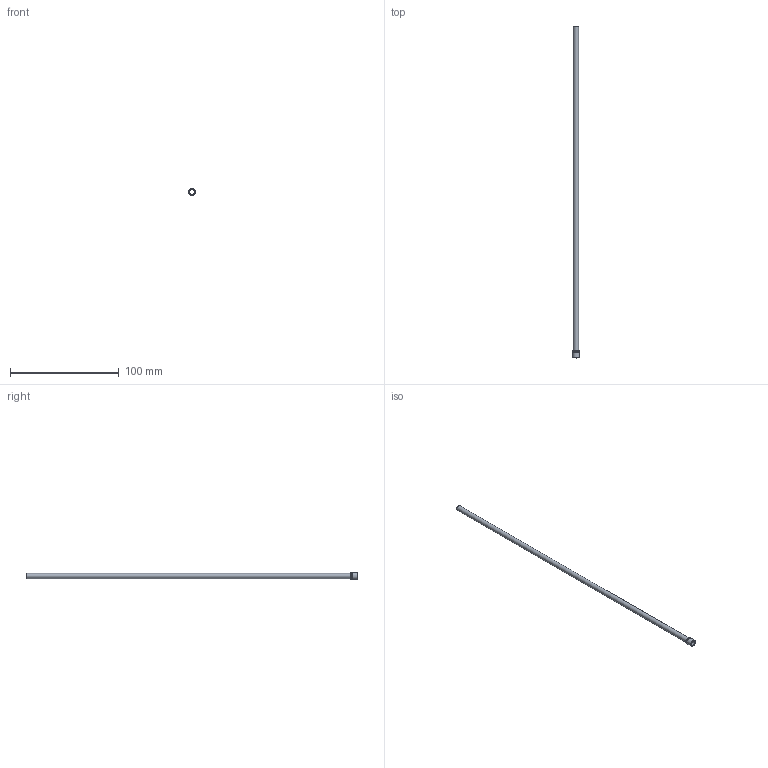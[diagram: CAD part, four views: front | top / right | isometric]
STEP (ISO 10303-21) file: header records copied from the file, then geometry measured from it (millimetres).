
FILE_DESCRIPTION(/* description */ (''),/* implementation_level */ '2;1');
FILE_NAME(/* name */ 'C:/Users/drich/Desktop/HF187T-12 v2.step',/* time_stamp */ '2019-12-30T13:26:24-06:00',/* author */ (''),/* organization */ (''),/* preprocessor_version */ 'ST-DEVELOPER v18',/* originating_system */ 'Autodesk Translation Framework v8.12.0.6',/* authorisation */ '');
FILE_SCHEMA (('AUTOMOTIVE_DESIGN { 1 0 10303 214 3 1 1 }'));
Length unit declared in the file: inch
Products named in the file (1): HF187T-12
Bounding box: 6.4 x 304.8 x 6.4 mm (x, y, z)
Volume: 1178 mm3; surface area: 8669.1 mm2
Topology: 1 solids, 1 shells, 12 faces, 30 edges, 22 vertices
Faces by surface type: plane 4, cylinder 4, torus 3, cone 1
Full cylindrical faces by diameter (mm): 4.242 x1, 4.75 x1, 6.243 x1, 6.401 x1
Entity records: 426 total; most frequent: DIRECTION 81, CARTESIAN_POINT 65, ORIENTED_EDGE 60, AXIS2_PLACEMENT_3D 38, EDGE_CURVE 30, CIRCLE 25, VERTEX_POINT 22, EDGE_LOOP 16
